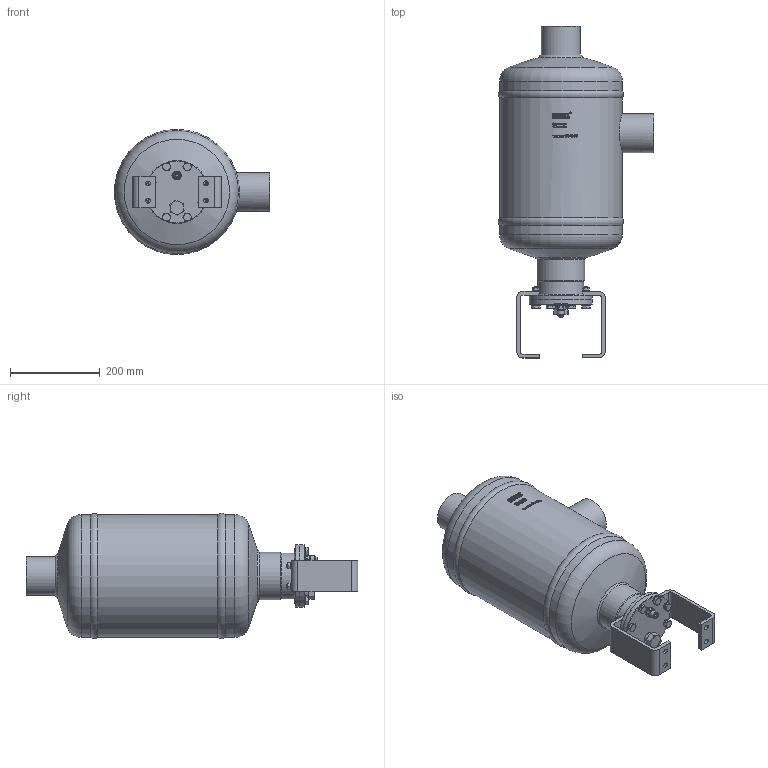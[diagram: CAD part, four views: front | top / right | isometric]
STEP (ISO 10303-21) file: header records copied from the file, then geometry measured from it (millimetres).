
FILE_DESCRIPTION(/* description */ (''),/* implementation_level */ '2;1');
FILE_NAME(/* name */ 'P:\OS\OS-80FS\OS-80FS.stp',/* time_stamp */ '2017-10-04T08:17:23+02:00',/* author */ ('neufeld'),/* organization */ (''),/* preprocessor_version */ 'ST-DEVELOPER v16.1',/* originating_system */ 'Autodesk Inventor 2016',/* authorisation */ '');
FILE_SCHEMA (('AUTOMOTIVE_DESIGN { 1 0 10303 214 3 1 1 }'));
Length unit declared in the file: millimetre
Products named in the file (2): OS-80FS; OS-80FS_1
Assembly tree (1 placements, depth 2):
  OS-80FS_1
    OS-80FS
Bounding box: 345.83 x 738.75 x 278.65 mm (x, y, z)
Volume: 26201986.1 mm3; surface area: 648111.7 mm2
Topology: 1 solids, 1 shells, 1433 faces, 3780 edges, 2478 vertices
Faces by surface type: plane 708, bspline 396, cylinder 197, cone 122, torus 8, sphere 2
Full cylindrical faces by diameter (mm): 7.2 x1, 8 x8, 8.376 x4, 8.5 x4, 9.188 x8, 10 x12, 10.5 x8, 11 x4, 13.5 x1, 15.4 x8, 15.7 x1, 19 x1, 22.5 x1, 23.6 x1, 80.3 x2, 87 x2, 102 x1, 106 x1, 135 x1, 140 x2, 273 x1, 273.2 x2
Entity records: 51943 total; most frequent: CARTESIAN_POINT 19718, ORIENTED_EDGE 7186, DIRECTION 5691, EDGE_CURVE 3593, VERTEX_POINT 2416, AXIS2_PLACEMENT_3D 2077, EDGE_LOOP 1723, LINE 1537
